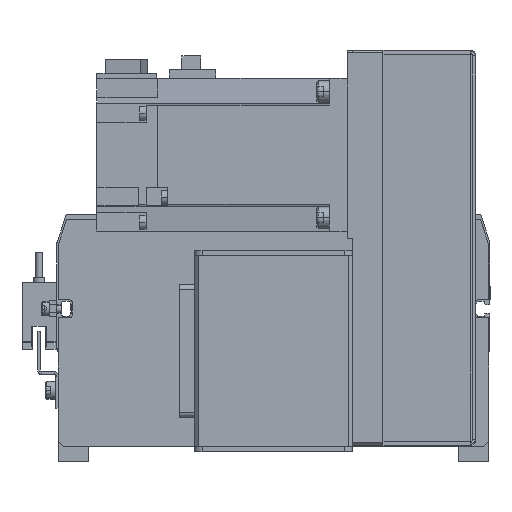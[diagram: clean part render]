
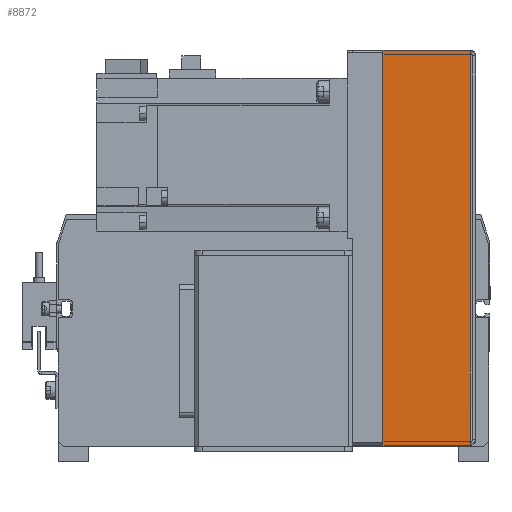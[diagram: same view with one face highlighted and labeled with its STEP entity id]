
A CAD part, front view. The second image highlights one B-rep face of the part: STEP entity #8872.
In plain terms, the highlighted planar face has unit normal (0, -1, 0) as drawn and (0, 1, 0) by its records, which use the part's own axes.
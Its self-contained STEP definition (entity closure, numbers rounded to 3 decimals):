
#130 = PLANE ( 'NONE',  #8584 ) ;
#817 = ORIENTED_EDGE ( 'NONE', *, *, #28756, .F. ) ;
#2020 = DIRECTION ( 'NONE',  ( 0., 0., -1. ) ) ;
#3321 = CARTESIAN_POINT ( 'NONE',  ( 35., 59.837, 20.673 ) ) ;
#3995 = DIRECTION ( 'NONE',  ( 1., 0., 0. ) ) ;
#6313 = DIRECTION ( 'NONE',  ( 1., 0., 0. ) ) ;
#6388 = CARTESIAN_POINT ( 'NONE',  ( 0., 59.837, 0. ) ) ;
#6719 = EDGE_LOOP ( 'NONE', ( #817, #17347, #29231, #11316 ) ) ;
#6807 = EDGE_CURVE ( 'NONE', #13568, #20166, #24374, .T. ) ;
#7199 = LINE ( 'NONE', #18564, #17477 ) ;
#7968 = LINE ( 'NONE', #21005, #40156 ) ;
#8584 = AXIS2_PLACEMENT_3D ( 'NONE', #6388, #28218, #15817 ) ;
#8872 = ADVANCED_FACE ( 'NONE', ( #13255 ), #130, .F. ) ;
#9744 = EDGE_CURVE ( 'NONE', #27381, #15083, #40479, .T. ) ;
#10471 = CARTESIAN_POINT ( 'NONE',  ( 0.737, 59.837, -134.327 ) ) ;
#11316 = ORIENTED_EDGE ( 'NONE', *, *, #9744, .F. ) ;
#11615 = CARTESIAN_POINT ( 'NONE',  ( 0.737, 59.837, 20.673 ) ) ;
#13255 = FACE_OUTER_BOUND ( 'NONE', #6719, .T. ) ;
#13568 = VERTEX_POINT ( 'NONE', #11615 ) ;
#13671 = VECTOR ( 'NONE', #3995, 1000. ) ;
#14388 = EDGE_CURVE ( 'NONE', #15083, #20166, #7199, .T. ) ;
#15083 = VERTEX_POINT ( 'NONE', #22338 ) ;
#15817 = DIRECTION ( 'NONE',  ( 1., 0., 0. ) ) ;
#16580 = VECTOR ( 'NONE', #6313, 1000. ) ;
#17347 = ORIENTED_EDGE ( 'NONE', *, *, #6807, .T. ) ;
#17477 = VECTOR ( 'NONE', #34260, 1000. ) ;
#18564 = CARTESIAN_POINT ( 'NONE',  ( 35., 59.837, -134.327 ) ) ;
#20166 = VERTEX_POINT ( 'NONE', #3321 ) ;
#21005 = CARTESIAN_POINT ( 'NONE',  ( 0.737, 59.837, -134.327 ) ) ;
#22338 = CARTESIAN_POINT ( 'NONE',  ( 35., 59.837, -134.327 ) ) ;
#24374 = LINE ( 'NONE', #31694, #13671 ) ;
#27381 = VERTEX_POINT ( 'NONE', #10471 ) ;
#28218 = DIRECTION ( 'NONE',  ( 0., -1., 0. ) ) ;
#28756 = EDGE_CURVE ( 'NONE', #13568, #27381, #7968, .T. ) ;
#29231 = ORIENTED_EDGE ( 'NONE', *, *, #14388, .F. ) ;
#30353 = CARTESIAN_POINT ( 'NONE',  ( 0.737, 59.837, -134.327 ) ) ;
#31694 = CARTESIAN_POINT ( 'NONE',  ( 0.737, 59.837, 20.673 ) ) ;
#34260 = DIRECTION ( 'NONE',  ( 0., 0., 1. ) ) ;
#40156 = VECTOR ( 'NONE', #2020, 1000. ) ;
#40479 = LINE ( 'NONE', #30353, #16580 ) ;
